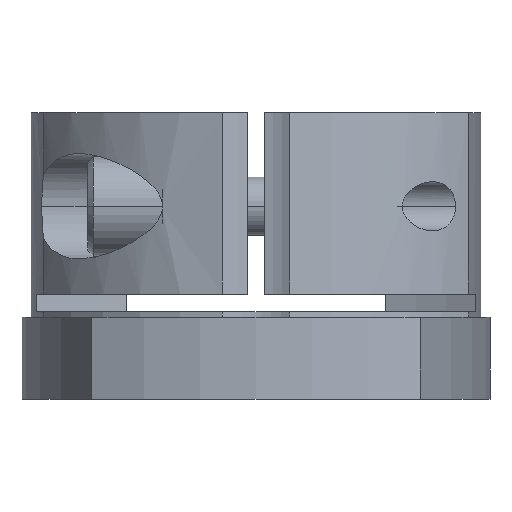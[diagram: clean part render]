
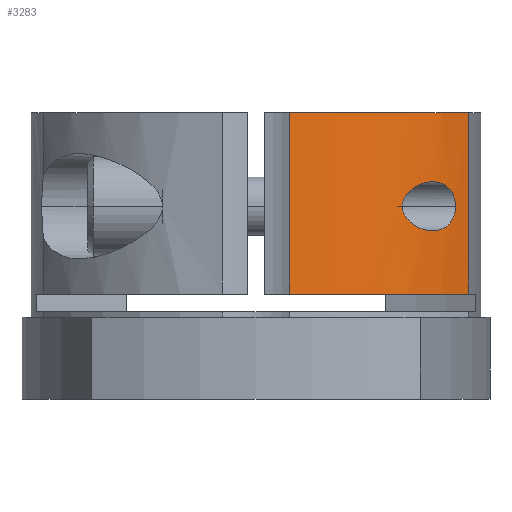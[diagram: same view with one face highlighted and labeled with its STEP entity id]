
A CAD part, front view. The second image highlights one B-rep face of the part: STEP entity #3283.
In plain terms, the highlighted cylindrical face has radius 22 mm (diameter 44 mm), a partial arc.
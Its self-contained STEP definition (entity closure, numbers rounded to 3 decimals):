
#721=CARTESIAN_POINT('',(17.053,-13.9,13.0));
#722=VERTEX_POINT('',#721);
#731=CARTESIAN_POINT('',(12.506,-18.1,13.0));
#732=VERTEX_POINT('',#731);
#733=CARTESIAN_POINT('',(12.506,-18.1,13.0));
#734=CARTESIAN_POINT('',(12.506,-18.1,13.134));
#735=CARTESIAN_POINT('',(12.524,-18.087,13.267));
#736=CARTESIAN_POINT('',(12.595,-18.038,13.523));
#737=CARTESIAN_POINT('',(12.647,-18.002,13.646));
#738=CARTESIAN_POINT('',(12.837,-17.867,13.993));
#739=CARTESIAN_POINT('',(13.012,-17.741,14.192));
#740=CARTESIAN_POINT('',(13.46,-17.405,14.593));
#741=CARTESIAN_POINT('',(13.787,-17.15,14.784));
#742=CARTESIAN_POINT('',(14.286,-16.732,14.974));
#743=CARTESIAN_POINT('',(14.455,-16.586,15.022));
#744=CARTESIAN_POINT('',(14.785,-16.293,15.085));
#745=CARTESIAN_POINT('',(14.946,-16.145,15.1));
#746=CARTESIAN_POINT('',(15.235,-15.872,15.1));
#747=CARTESIAN_POINT('',(15.375,-15.737,15.088));
#748=CARTESIAN_POINT('',(15.652,-15.461,15.035));
#749=CARTESIAN_POINT('',(15.789,-15.321,14.993));
#750=CARTESIAN_POINT('',(16.052,-15.045,14.876));
#751=CARTESIAN_POINT('',(16.178,-14.91,14.802));
#752=CARTESIAN_POINT('',(16.409,-14.655,14.621));
#753=CARTESIAN_POINT('',(16.515,-14.536,14.514));
#754=CARTESIAN_POINT('',(16.672,-14.354,14.309));
#755=CARTESIAN_POINT('',(16.734,-14.282,14.214));
#756=CARTESIAN_POINT('',(16.844,-14.152,14.005));
#757=CARTESIAN_POINT('',(16.893,-14.094,13.89));
#758=CARTESIAN_POINT('',(16.972,-13.998,13.648));
#759=CARTESIAN_POINT('',(17.002,-13.961,13.521));
#760=CARTESIAN_POINT('',(17.043,-13.912,13.261));
#761=CARTESIAN_POINT('',(17.053,-13.9,13.129));
#762=CARTESIAN_POINT('',(17.053,-13.9,13.0));
#763=B_SPLINE_CURVE_WITH_KNOTS('',3,(#733,#734,#735,#736,#737,#738,#739,#740,#741,#742,#743,#744,#745,#746,#747,#748,#749,#750,#751,#752,#753,#754,#755,#756,#757,#758,#759,#760,#761,#762),.UNSPECIFIED.,.F.,.U.,(4,2,2,2,2,2,2,2,2,2,2,2,2,2,4),(7.918,8.32,8.721,9.525,10.788,11.42,12.052,12.611,13.17,13.73,14.289,14.676,15.063,15.45,15.837),.UNSPECIFIED.);
#764=EDGE_CURVE('',#732,#722,#763,.T.);
#2374=CARTESIAN_POINT('',(17.053,-13.9,13.0));
#2375=CARTESIAN_POINT('',(17.053,-13.9,12.871));
#2376=CARTESIAN_POINT('',(17.043,-13.912,12.739));
#2377=CARTESIAN_POINT('',(17.002,-13.961,12.479));
#2378=CARTESIAN_POINT('',(16.972,-13.998,12.352));
#2379=CARTESIAN_POINT('',(16.893,-14.094,12.11));
#2380=CARTESIAN_POINT('',(16.844,-14.152,11.995));
#2381=CARTESIAN_POINT('',(16.734,-14.282,11.786));
#2382=CARTESIAN_POINT('',(16.672,-14.354,11.691));
#2383=CARTESIAN_POINT('',(16.515,-14.536,11.486));
#2384=CARTESIAN_POINT('',(16.409,-14.655,11.379));
#2385=CARTESIAN_POINT('',(16.178,-14.91,11.198));
#2386=CARTESIAN_POINT('',(16.052,-15.045,11.124));
#2387=CARTESIAN_POINT('',(15.789,-15.321,11.007));
#2388=CARTESIAN_POINT('',(15.652,-15.461,10.965));
#2389=CARTESIAN_POINT('',(15.375,-15.737,10.912));
#2390=CARTESIAN_POINT('',(15.235,-15.872,10.9));
#2391=CARTESIAN_POINT('',(14.946,-16.145,10.9));
#2392=CARTESIAN_POINT('',(14.785,-16.293,10.915));
#2393=CARTESIAN_POINT('',(14.455,-16.586,10.978));
#2394=CARTESIAN_POINT('',(14.286,-16.732,11.026));
#2395=CARTESIAN_POINT('',(13.787,-17.15,11.216));
#2396=CARTESIAN_POINT('',(13.46,-17.405,11.407));
#2397=CARTESIAN_POINT('',(13.012,-17.741,11.808));
#2398=CARTESIAN_POINT('',(12.837,-17.867,12.007));
#2399=CARTESIAN_POINT('',(12.647,-18.002,12.354));
#2400=CARTESIAN_POINT('',(12.595,-18.038,12.477));
#2401=CARTESIAN_POINT('',(12.524,-18.087,12.733));
#2402=CARTESIAN_POINT('',(12.506,-18.1,12.866));
#2403=CARTESIAN_POINT('',(12.506,-18.1,13.0));
#2404=B_SPLINE_CURVE_WITH_KNOTS('',3,(#2374,#2375,#2376,#2377,#2378,#2379,#2380,#2381,#2382,#2383,#2384,#2385,#2386,#2387,#2388,#2389,#2390,#2391,#2392,#2393,#2394,#2395,#2396,#2397,#2398,#2399,#2400,#2401,#2402,#2403),.UNSPECIFIED.,.F.,.U.,(4,2,2,2,2,2,2,2,2,2,2,2,2,2,4),(0.0,0.387,0.774,1.161,1.548,2.107,2.666,3.225,3.785,4.416,5.048,6.312,7.115,7.517,7.918),.UNSPECIFIED.);
#2405=EDGE_CURVE('',#722,#732,#2404,.T.);
#2580=CARTESIAN_POINT('',(2.875,-21.811,21.0));
#2581=VERTEX_POINT('',#2580);
#2582=CARTESIAN_POINT('',(2.875,-21.811,5.5));
#2583=VERTEX_POINT('',#2582);
#2584=CARTESIAN_POINT('',(2.875,-21.811,21.0));
#2585=DIRECTION('',(0.0,0.0,-1.0));
#2586=VECTOR('',#2585,15.5);
#2587=LINE('',#2584,#2586);
#2588=EDGE_CURVE('',#2581,#2583,#2587,.T.);
#2995=CARTESIAN_POINT('',(18.151,-12.431,21.0));
#2996=VERTEX_POINT('',#2995);
#2997=CARTESIAN_POINT('',(0.,0.,21.0));
#2998=DIRECTION('',(0.0,0.0,-1.0));
#2999=DIRECTION('',(1.0,0.0,0.0));
#3000=AXIS2_PLACEMENT_3D('',#2997,#2998,#2999);
#3001=CIRCLE('',#3000,22.);
#3002=EDGE_CURVE('',#2996,#2581,#3001,.T.);
#3255=CARTESIAN_POINT('',(0.,0.,-3.5));
#3256=DIRECTION('',(0.0,0.0,1.0));
#3257=DIRECTION('',(1.0,0.0,0.0));
#3258=AXIS2_PLACEMENT_3D('',#3255,#3256,#3257);
#3259=CYLINDRICAL_SURFACE('',#3258,22.);
#3260=ORIENTED_EDGE('',*,*,#2588,.T.);
#3261=CARTESIAN_POINT('',(18.151,-12.431,5.5));
#3262=VERTEX_POINT('',#3261);
#3263=CARTESIAN_POINT('',(0.,0.,5.5));
#3264=DIRECTION('',(0.0,0.0,1.0));
#3265=DIRECTION('',(1.0,0.0,0.0));
#3266=AXIS2_PLACEMENT_3D('',#3263,#3264,#3265);
#3267=CIRCLE('',#3266,22.);
#3268=EDGE_CURVE('',#2583,#3262,#3267,.T.);
#3269=ORIENTED_EDGE('',*,*,#3268,.T.);
#3270=CARTESIAN_POINT('',(18.151,-12.431,5.5));
#3271=DIRECTION('',(0.0,0.0,1.0));
#3272=VECTOR('',#3271,15.5);
#3273=LINE('',#3270,#3272);
#3274=EDGE_CURVE('',#3262,#2996,#3273,.T.);
#3275=ORIENTED_EDGE('',*,*,#3274,.T.);
#3276=ORIENTED_EDGE('',*,*,#3002,.T.);
#3277=EDGE_LOOP('',(#3260,#3269,#3275,#3276));
#3278=FACE_OUTER_BOUND('',#3277,.T.);
#3279=ORIENTED_EDGE('',*,*,#2405,.T.);
#3280=ORIENTED_EDGE('',*,*,#764,.T.);
#3281=EDGE_LOOP('',(#3279,#3280));
#3282=FACE_BOUND('',#3281,.T.);
#3283=ADVANCED_FACE('',(#3278,#3282),#3259,.T.);
